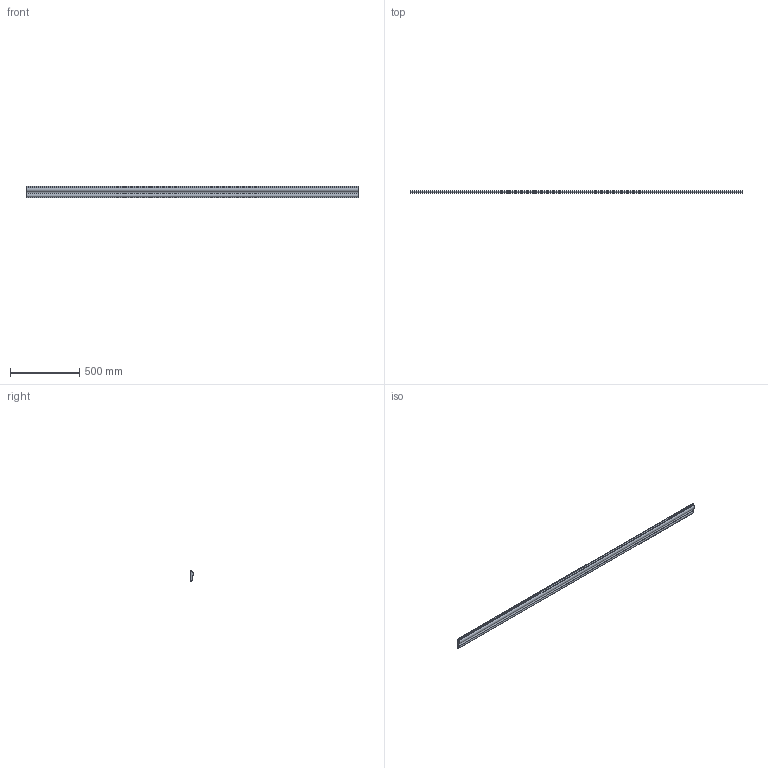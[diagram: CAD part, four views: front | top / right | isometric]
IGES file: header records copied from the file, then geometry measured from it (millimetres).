
Global section: file name: C:\Users\Wicad\Desktop\mardom listwy do wys; native system: Rhinoceros ( Mar  9 2011 ); preprocessor: Trout Lake IGES 012 Mar  9 2011; date: 120525.091047; units: centimetre
Bounding box: 2400 x 21.3 x 80 mm (x, y, z)
Surface area: 466020.8 mm2 (no closed solid volume)
Topology: 0 solids, 0 shells, 11 faces, 56 edges, 56 vertices
Faces by surface type: bspline 9, plane 2
